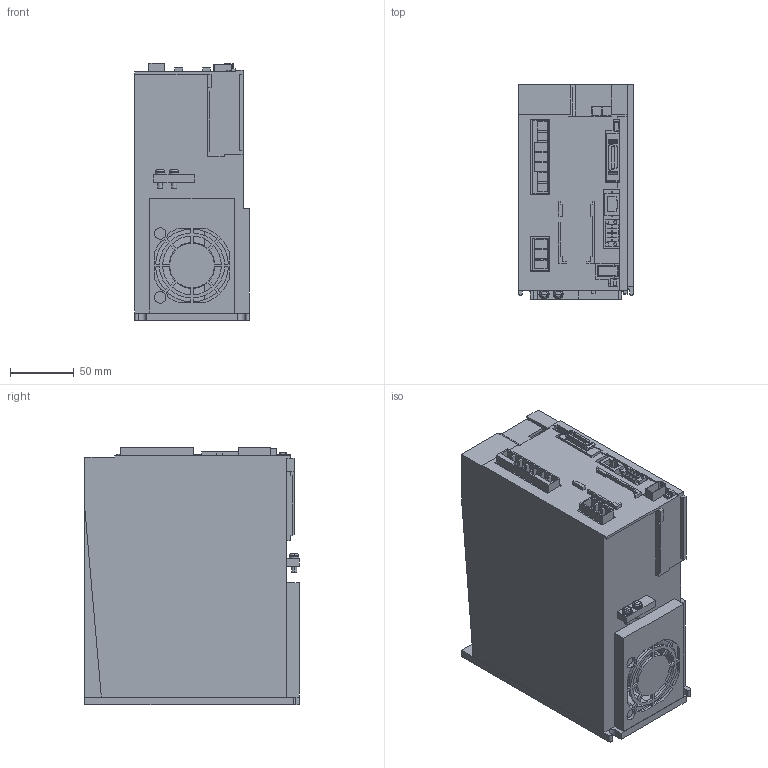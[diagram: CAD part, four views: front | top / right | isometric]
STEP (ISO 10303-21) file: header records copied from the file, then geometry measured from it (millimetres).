
FILE_DESCRIPTION((''),'2;1');
FILE_NAME('MR-JE-200CA_ASM','2017-08-01T',('ES20962'),(''),'PRO/ENGINEER BY PARAMETRIC TECHNOLOGY CORPORATION, 2014310','PRO/ENGINEER BY PARAMETRIC TECHNOLOGY CORPORATION, 2014310','');
FILE_SCHEMA(('CONFIG_CONTROL_DESIGN'));
Length unit declared in the file: millimetre
Products named in the file (15): J4-200-CHASSIS; JE-200C-CASE; J4-200-350-FANCOVER; J4A-CN2; FAN60; SW-PW-P-NA-M4X12-PE; JE-200-300-CNP1; J4-200-350-CNP3; J4B-CN4; JEB-CN1; JEC-CN1; JEC-CN6; JEC-CN3; JEC-CN5; MR-JE-200CA_ASM
Assembly tree (16 placements, depth 2):
  MR-JE-200CA_ASM
    J4-200-CHASSIS
    JE-200C-CASE
    J4-200-350-FANCOVER
    J4A-CN2
    FAN60
    SW-PW-P-NA-M4X12-PE  x2
    JE-200-300-CNP1
    J4-200-350-CNP3
    J4B-CN4
    JEB-CN1  x2
    JEC-CN1
    JEC-CN6
    JEC-CN3
    JEC-CN5
Bounding box: 90 x 168 x 201.6 mm (x, y, z)
Volume: 431582.1 mm3; surface area: 289934.2 mm2
Topology: 18 solids, 18 shells, 606 faces, 1647 edges, 1093 vertices
Faces by surface type: plane 496, cylinder 98, cone 4, torus 4, sphere 4
Entity records: 18765 total; most frequent: CARTESIAN_POINT 3282, ORIENTED_EDGE 3202, DIRECTION 3033, EDGE_CURVE 1601, VECTOR 1399, LINE 1399, VERTEX_POINT 1066, AXIS2_PLACEMENT_3D 817
